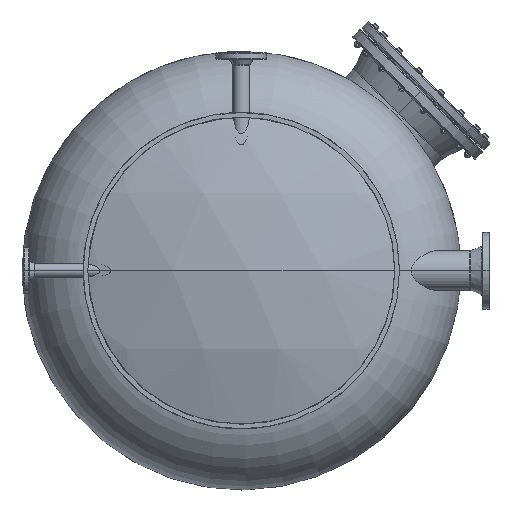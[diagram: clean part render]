
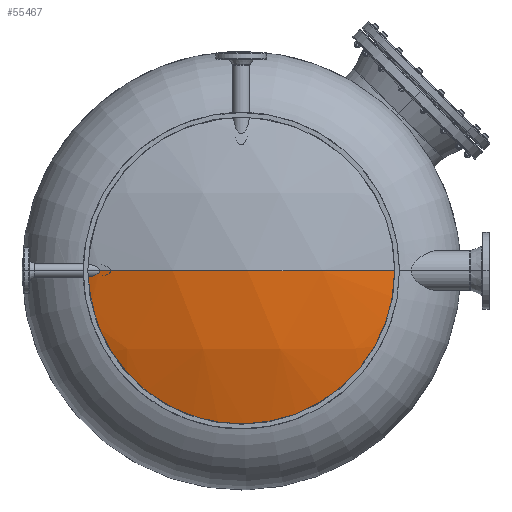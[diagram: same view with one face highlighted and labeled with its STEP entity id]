
A CAD part, front view. The second image highlights one B-rep face of the part: STEP entity #55467.
In plain terms, the highlighted spherical face has radius 1411 mm.
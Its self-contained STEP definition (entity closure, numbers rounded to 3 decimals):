
#4521 = CARTESIAN_POINT ( 'NONE',  ( 53.3, 127.946, -519.685 ) ) ;
#5692 = CARTESIAN_POINT ( 'NONE',  ( 29.888, 136.4, -533.103 ) ) ;
#5708 = DIRECTION ( 'NONE',  ( 0., 0., -1. ) ) ;
#6306 = CARTESIAN_POINT ( 'NONE',  ( 515., 1461.262, -515. ) ) ;
#8011 = CARTESIAN_POINT ( 'NONE',  ( 20.756, 139.804, -535.347 ) ) ;
#9615 = CARTESIAN_POINT ( 'NONE',  ( 16.284, 141.505, -536.051 ) ) ;
#13428 = CARTESIAN_POINT ( 'NONE',  ( 53.759, 127.785, -518.823 ) ) ;
#14024 = CARTESIAN_POINT ( 'NONE',  ( 49.938, 129.135, -523.571 ) ) ;
#14591 = CARTESIAN_POINT ( 'NONE',  ( 49.909, 129.145, -523.596 ) ) ;
#15646 = B_SPLINE_CURVE_WITH_KNOTS ( 'NONE', 3,
 ( #30622, #85541, #21744, #76040, #112243, #13428, #59829, #49726, #32387, #86126, #4521, #68837, #67011, #103329, #111675, #40744, #68244, #84354, #113389, #105078, #14024, #96194, #14591, #22929, #59237, #95596, #38982, #102764, #75471, #21142, #57460, #116305, #97942, #115734, #87869, #70621, #34155, #106260, #52054, #33569, #53216, #106848, #70016, #24695, #5692, #88472, #15731, #78383, #99111, #25259, #89630, #114550, #8011, #32959 ),
 .UNSPECIFIED., .F., .F.,
 ( 4, 2, 2, 1, 1, 1, 2, 2, 2, 1, 1, 1, 1, 1, 1, 2, 2, 2, 2, 1, 1, 1, 1, 1, 1, 2, 2, 2, 2, 1, 1, 1, 1, 1, 2, 2, 4 ),
 ( 0., 0.062, 0.094, 0.109, 0.117, 0.121, 0.123, 0.125, 0.187, 0.219, 0.234, 0.242, 0.246, 0.248, 0.249, 0.25, 0.25, 0.375, 0.437, 0.469, 0.484, 0.492, 0.496, 0.498, 0.499, 0.5, 0.5, 0.625, 0.687, 0.719, 0.734, 0.742, 0.746, 0.748, 0.749, 0.75, 1. ),
 .UNSPECIFIED. ) ;
#15731 = CARTESIAN_POINT ( 'NONE',  ( 29.191, 136.658, -533.297 ) ) ;
#19785 = CARTESIAN_POINT ( 'NONE',  ( 1014.16, 141.505, -515. ) ) ;
#20007 = AXIS2_PLACEMENT_3D ( 'NONE', #6306, #42533, #115194 ) ;
#21142 = CARTESIAN_POINT ( 'NONE',  ( 42.115, 131.933, -528.565 ) ) ;
#21744 = CARTESIAN_POINT ( 'NONE',  ( 54.497, 127.525, -516.695 ) ) ;
#22929 = CARTESIAN_POINT ( 'NONE',  ( 49.902, 129.147, -523.601 ) ) ;
#24695 = CARTESIAN_POINT ( 'NONE',  ( 30.806, 136.061, -532.84 ) ) ;
#25259 = CARTESIAN_POINT ( 'NONE',  ( 28.991, 136.733, -533.352 ) ) ;
#29270 = AXIS2_PLACEMENT_3D ( 'NONE', #89642, #5708, #99709 ) ;
#30622 = CARTESIAN_POINT ( 'NONE',  ( 54.676, 127.462, -515. ) ) ;
#31160 = ORIENTED_EDGE ( 'NONE', *, *, #35446, .F. ) ;
#32387 = CARTESIAN_POINT ( 'NONE',  ( 53.365, 127.923, -519.573 ) ) ;
#32959 = CARTESIAN_POINT ( 'NONE',  ( 16.284, 141.505, -536.051 ) ) ;
#33569 = CARTESIAN_POINT ( 'NONE',  ( 36.954, 133.803, -530.809 ) ) ;
#34110 = EDGE_CURVE ( 'NONE', #103456, #114514, #76914, .T. ) ;
#34155 = CARTESIAN_POINT ( 'NONE',  ( 40.456, 132.533, -529.335 ) ) ;
#35446 = EDGE_CURVE ( 'NONE', #103456, #88622, #111349, .T. ) ;
#35847 = EDGE_LOOP ( 'NONE', ( #31160, #106505, #102567 ) ) ;
#37095 = AXIS2_PLACEMENT_3D ( 'NONE', #107032, #116488, #88657 ) ;
#38982 = CARTESIAN_POINT ( 'NONE',  ( 44.96, 130.91, -527.07 ) ) ;
#40744 = CARTESIAN_POINT ( 'NONE',  ( 51.101, 128.723, -522.49 ) ) ;
#42533 = DIRECTION ( 'NONE',  ( 0., 0., -1. ) ) ;
#49726 = CARTESIAN_POINT ( 'NONE',  ( 53.455, 127.892, -519.417 ) ) ;
#51249 = CARTESIAN_POINT ( 'NONE',  ( 54.676, 127.462, -515. ) ) ;
#52054 = CARTESIAN_POINT ( 'NONE',  ( 38.754, 133.149, -530.096 ) ) ;
#53216 = CARTESIAN_POINT ( 'NONE',  ( 34.083, 134.854, -531.814 ) ) ;
#55467 = ADVANCED_FACE ( 'NONE', ( #105719 ), #113435, .T. ) ;
#57460 = CARTESIAN_POINT ( 'NONE',  ( 41.288, 132.231, -528.956 ) ) ;
#59237 = CARTESIAN_POINT ( 'NONE',  ( 48.707, 129.571, -524.642 ) ) ;
#59829 = CARTESIAN_POINT ( 'NONE',  ( 53.626, 127.832, -519.1 ) ) ;
#67011 = CARTESIAN_POINT ( 'NONE',  ( 52.877, 128.095, -520.388 ) ) ;
#68244 = CARTESIAN_POINT ( 'NONE',  ( 50.517, 128.929, -523.049 ) ) ;
#68837 = CARTESIAN_POINT ( 'NONE',  ( 53.286, 127.951, -519.709 ) ) ;
#70016 = CARTESIAN_POINT ( 'NONE',  ( 31.577, 135.776, -532.609 ) ) ;
#70084 = EDGE_CURVE ( 'NONE', #114514, #88622, #15646, .T. ) ;
#70621 = CARTESIAN_POINT ( 'NONE',  ( 40.471, 132.527, -529.328 ) ) ;
#75471 = CARTESIAN_POINT ( 'NONE',  ( 42.796, 131.687, -528.225 ) ) ;
#76040 = CARTESIAN_POINT ( 'NONE',  ( 54.147, 127.648, -517.877 ) ) ;
#76914 = CIRCLE ( 'NONE', #29270, 1411. ) ;
#78383 = CARTESIAN_POINT ( 'NONE',  ( 29.075, 136.702, -533.329 ) ) ;
#84354 = CARTESIAN_POINT ( 'NONE',  ( 50.212, 129.037, -523.328 ) ) ;
#85541 = CARTESIAN_POINT ( 'NONE',  ( 54.635, 127.477, -515.868 ) ) ;
#86126 = CARTESIAN_POINT ( 'NONE',  ( 53.326, 127.937, -519.64 ) ) ;
#87869 = CARTESIAN_POINT ( 'NONE',  ( 40.494, 132.519, -529.318 ) ) ;
#88472 = CARTESIAN_POINT ( 'NONE',  ( 29.424, 136.572, -533.232 ) ) ;
#88622 = VERTEX_POINT ( 'NONE', #9615 ) ;
#88657 = DIRECTION ( 'NONE',  ( 1., 0., 0. ) ) ;
#89630 = CARTESIAN_POINT ( 'NONE',  ( 28.973, 136.739, -533.357 ) ) ;
#89642 = CARTESIAN_POINT ( 'NONE',  ( 515., 1461.262, -515. ) ) ;
#95596 = CARTESIAN_POINT ( 'NONE',  ( 47.324, 130.064, -525.637 ) ) ;
#96194 = CARTESIAN_POINT ( 'NONE',  ( 49.921, 129.141, -523.586 ) ) ;
#97942 = CARTESIAN_POINT ( 'NONE',  ( 40.655, 132.461, -529.246 ) ) ;
#99111 = CARTESIAN_POINT ( 'NONE',  ( 29.024, 136.72, -533.342 ) ) ;
#99709 = DIRECTION ( 'NONE',  ( 0., -1., 0. ) ) ;
#102567 = ORIENTED_EDGE ( 'NONE', *, *, #70084, .T. ) ;
#102764 = CARTESIAN_POINT ( 'NONE',  ( 44.123, 131.21, -527.538 ) ) ;
#103329 = CARTESIAN_POINT ( 'NONE',  ( 52.398, 128.264, -521.04 ) ) ;
#103456 = VERTEX_POINT ( 'NONE', #19785 ) ;
#105078 = CARTESIAN_POINT ( 'NONE',  ( 49.977, 129.121, -523.536 ) ) ;
#105719 = FACE_OUTER_BOUND ( 'NONE', #35847, .T. ) ;
#106260 = CARTESIAN_POINT ( 'NONE',  ( 40.447, 132.536, -529.339 ) ) ;
#106505 = ORIENTED_EDGE ( 'NONE', *, *, #34110, .T. ) ;
#106848 = CARTESIAN_POINT ( 'NONE',  ( 33.098, 135.216, -532.138 ) ) ;
#107032 = CARTESIAN_POINT ( 'NONE',  ( 515., 141.505, -515. ) ) ;
#111349 = CIRCLE ( 'NONE', #37095, 499.16 ) ;
#111675 = CARTESIAN_POINT ( 'NONE',  ( 51.554, 128.562, -522.008 ) ) ;
#112243 = CARTESIAN_POINT ( 'NONE',  ( 54.006, 127.698, -518.261 ) ) ;
#113389 = CARTESIAN_POINT ( 'NONE',  ( 50.056, 129.093, -523.467 ) ) ;
#113435 = SPHERICAL_SURFACE ( 'NONE', #20007, 1411. ) ;
#114514 = VERTEX_POINT ( 'NONE', #51249 ) ;
#114550 = CARTESIAN_POINT ( 'NONE',  ( 24.98, 138.22, -534.446 ) ) ;
#115194 = DIRECTION ( 'NONE',  ( 1., 0., 0. ) ) ;
#115734 = CARTESIAN_POINT ( 'NONE',  ( 40.548, 132.499, -529.294 ) ) ;
#116305 = CARTESIAN_POINT ( 'NONE',  ( 40.867, 132.384, -529.149 ) ) ;
#116488 = DIRECTION ( 'NONE',  ( 0., 1., 0. ) ) ;
